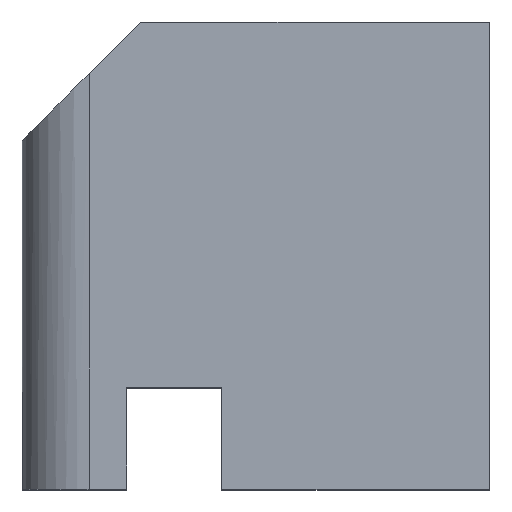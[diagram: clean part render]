
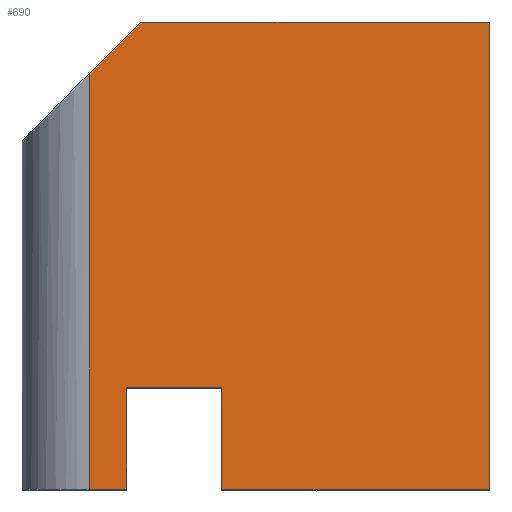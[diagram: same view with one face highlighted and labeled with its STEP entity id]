
A CAD part, top view. The second image highlights one B-rep face of the part: STEP entity #690.
In plain terms, the highlighted planar face has unit normal (0, 0, 1).
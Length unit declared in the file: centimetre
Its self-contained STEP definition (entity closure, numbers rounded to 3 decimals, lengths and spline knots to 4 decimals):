
#5 = DIRECTION ( 'NONE',  ( 0., 1., 0. ) ) ;
#11 = CARTESIAN_POINT ( 'NONE',  ( -373.4868, 373.4868, 1000. ) ) ;
#29 = LINE ( 'NONE', #181, #782 ) ;
#42 = CARTESIAN_POINT ( 'NONE',  ( 142.6898, 0., 1000. ) ) ;
#59 = LINE ( 'NONE', #612, #806 ) ;
#85 = DIRECTION ( 'NONE',  ( 1., 0., 0. ) ) ;
#91 = DIRECTION ( 'NONE',  ( -1., 0., 0. ) ) ;
#115 = AXIS2_PLACEMENT_3D ( 'NONE', #708, #572, #85 ) ;
#157 = PLANE ( 'NONE',  #115 ) ;
#181 = CARTESIAN_POINT ( 'NONE',  ( 0., 0., 1000. ) ) ;
#214 = DIRECTION ( 'NONE',  ( 0., 1., 0. ) ) ;
#216 = CARTESIAN_POINT ( 'NONE',  ( 1000., 1000., 1000. ) ) ;
#233 = LINE ( 'NONE', #42, #696 ) ;
#247 = CARTESIAN_POINT ( 'NONE',  ( 222.9439, 0., 1000. ) ) ;
#287 = LINE ( 'NONE', #562, #513 ) ;
#299 = VERTEX_POINT ( 'NONE', #632 ) ;
#311 = ORIENTED_EDGE ( 'NONE', *, *, #316, .T. ) ;
#315 = VERTEX_POINT ( 'NONE', #216 ) ;
#316 = EDGE_CURVE ( 'NONE', #299, #429, #490, .T. ) ;
#324 = DIRECTION ( 'NONE',  ( 0., -1., 0. ) ) ;
#355 = CARTESIAN_POINT ( 'NONE',  ( 1000., 1000., 1000. ) ) ;
#357 = EDGE_CURVE ( 'NONE', #388, #458, #29, .T. ) ;
#372 = CARTESIAN_POINT ( 'NONE',  ( 142.6898, 0., 1000. ) ) ;
#387 = CARTESIAN_POINT ( 'NONE',  ( 222.9439, 217.8707, 1000. ) ) ;
#388 = VERTEX_POINT ( 'NONE', #372 ) ;
#409 = LINE ( 'NONE', #752, #461 ) ;
#414 = ORIENTED_EDGE ( 'NONE', *, *, #587, .T. ) ;
#421 = VECTOR ( 'NONE', #91, 100. ) ;
#429 = VERTEX_POINT ( 'NONE', #868 ) ;
#442 = DIRECTION ( 'NONE',  ( 1., 0., 0. ) ) ;
#450 = EDGE_CURVE ( 'NONE', #429, #388, #233, .T. ) ;
#452 = LINE ( 'NONE', #387, #754 ) ;
#458 = VERTEX_POINT ( 'NONE', #247 ) ;
#461 = VECTOR ( 'NONE', #549, 100. ) ;
#464 = CARTESIAN_POINT ( 'NONE',  ( 222.9439, 217.8707, 1000. ) ) ;
#468 = ORIENTED_EDGE ( 'NONE', *, *, #625, .F. ) ;
#473 = VERTEX_POINT ( 'NONE', #525 ) ;
#490 = LINE ( 'NONE', #11, #589 ) ;
#492 = LINE ( 'NONE', #355, #681 ) ;
#496 = LINE ( 'NONE', #844, #421 ) ;
#497 = ORIENTED_EDGE ( 'NONE', *, *, #509, .T. ) ;
#508 = VERTEX_POINT ( 'NONE', #464 ) ;
#509 = EDGE_CURVE ( 'NONE', #804, #874, #59, .T. ) ;
#513 = VECTOR ( 'NONE', #214, 100. ) ;
#525 = CARTESIAN_POINT ( 'NONE',  ( 426.5317, 217.8707, 1000. ) ) ;
#549 = DIRECTION ( 'NONE',  ( 0., -1., 0. ) ) ;
#560 = ORIENTED_EDGE ( 'NONE', *, *, #663, .F. ) ;
#562 = CARTESIAN_POINT ( 'NONE',  ( 426.5317, 0., 1000. ) ) ;
#572 = DIRECTION ( 'NONE',  ( 0., 0., 1. ) ) ;
#587 = EDGE_CURVE ( 'NONE', #315, #299, #496, .T. ) ;
#589 = VECTOR ( 'NONE', #847, 100. ) ;
#612 = CARTESIAN_POINT ( 'NONE',  ( 0., 0., 1000. ) ) ;
#616 = EDGE_CURVE ( 'NONE', #874, #315, #492, .T. ) ;
#625 = EDGE_CURVE ( 'NONE', #804, #473, #287, .T. ) ;
#632 = CARTESIAN_POINT ( 'NONE',  ( 253.0265, 1000., 1000. ) ) ;
#633 = ORIENTED_EDGE ( 'NONE', *, *, #450, .T. ) ;
#650 = CARTESIAN_POINT ( 'NONE',  ( 426.5317, 0., 1000. ) ) ;
#655 = EDGE_CURVE ( 'NONE', #473, #508, #452, .T. ) ;
#658 = EDGE_LOOP ( 'NONE', ( #560, #779, #468, #497, #750, #414, #311, #633, #800 ) ) ;
#663 = EDGE_CURVE ( 'NONE', #508, #458, #409, .T. ) ;
#673 = DIRECTION ( 'NONE',  ( 1., 0., 0. ) ) ;
#681 = VECTOR ( 'NONE', #5, 100. ) ;
#690 = ADVANCED_FACE ( 'NONE', ( #703 ), #157, .T. ) ;
#696 = VECTOR ( 'NONE', #324, 100. ) ;
#703 = FACE_OUTER_BOUND ( 'NONE', #658, .T. ) ;
#708 = CARTESIAN_POINT ( 'NONE',  ( 0., 0., 1000. ) ) ;
#750 = ORIENTED_EDGE ( 'NONE', *, *, #616, .T. ) ;
#752 = CARTESIAN_POINT ( 'NONE',  ( 222.9439, 0., 1000. ) ) ;
#754 = VECTOR ( 'NONE', #903, 100. ) ;
#779 = ORIENTED_EDGE ( 'NONE', *, *, #655, .F. ) ;
#782 = VECTOR ( 'NONE', #442, 100. ) ;
#800 = ORIENTED_EDGE ( 'NONE', *, *, #357, .T. ) ;
#804 = VERTEX_POINT ( 'NONE', #650 ) ;
#806 = VECTOR ( 'NONE', #673, 100. ) ;
#811 = CARTESIAN_POINT ( 'NONE',  ( 1000., 0., 1000. ) ) ;
#844 = CARTESIAN_POINT ( 'NONE',  ( 0., 1000., 1000. ) ) ;
#847 = DIRECTION ( 'NONE',  ( -0.707, -0.707, 0. ) ) ;
#868 = CARTESIAN_POINT ( 'NONE',  ( 142.6898, 889.6633, 1000. ) ) ;
#874 = VERTEX_POINT ( 'NONE', #811 ) ;
#903 = DIRECTION ( 'NONE',  ( -1., 0., 0. ) ) ;
